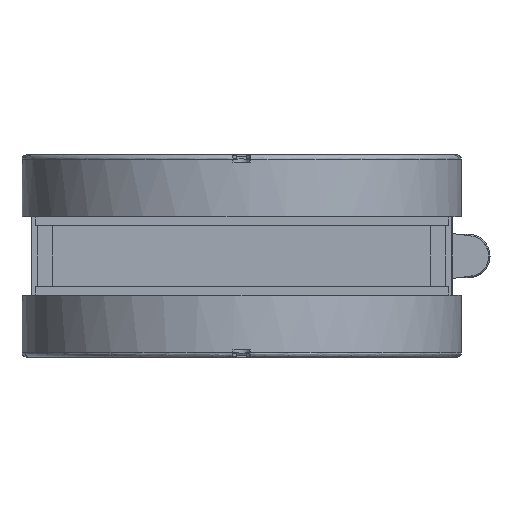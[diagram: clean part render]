
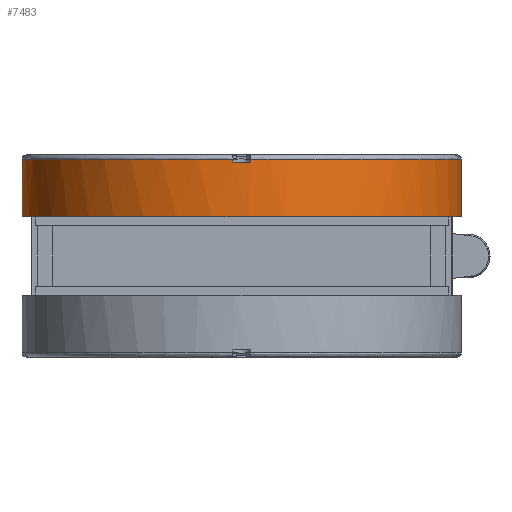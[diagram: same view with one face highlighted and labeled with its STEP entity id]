
A CAD part, front view. The second image highlights one B-rep face of the part: STEP entity #7483.
In plain terms, the highlighted free-form (B-spline) face has degree [2, 1] with [7, 2] control points.
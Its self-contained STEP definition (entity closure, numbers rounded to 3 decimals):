
#3679=CARTESIAN_POINT('V126',(75.741,19.9,
   3.));
#3680=VERTEX_POINT('V126',#3679);
#3692=CARTESIAN_POINT('V127',(-75.741,19.9,
   3.));
#3693=VERTEX_POINT('V127',#3692);
#3694=CARTESIAN_POINT('E205',(75.741,19.9,
   3.));
#3695=CARTESIAN_POINT('E205',(72.857,19.9,
   75.8));
#3696=CARTESIAN_POINT('E205',(0.,19.9,
   75.8));
#3697=CARTESIAN_POINT('E205',(-72.857,19.9,
   75.8));
#3698=CARTESIAN_POINT('E205',(-75.741,19.9,
   3.));
#3706=(BOUNDED_CURVE()B_SPLINE_CURVE(2,(#3694,#3695,#3696,#3697,
   #3698),.CIRCULAR_ARC.,.F.,.U.)B_SPLINE_CURVE_WITH_KNOTS((3,2,3),
   (2.0,50.285,98.57),.UNSPECIFIED.)CURVE(
   )GEOMETRIC_REPRESENTATION_ITEM()RATIONAL_B_SPLINE_CURVE((1.0,
   0.721,1.0,0.721,1.0))REPRESENTATION_ITEM(
   'E205'));
#3707=EDGE_CURVE('E205',#3680,#3693,#3706,.T.);
#3771=CARTESIAN_POINT('V122',(-75.741,19.9,
   -3.));
#3772=VERTEX_POINT('V122',#3771);
#3784=CARTESIAN_POINT('V123',(75.741,19.9,
   -3.));
#3785=VERTEX_POINT('V123',#3784);
#3786=CARTESIAN_POINT('E195',(-75.741,19.9,
   -3.));
#3787=CARTESIAN_POINT('E195',(-72.857,19.9,
   -75.8));
#3788=CARTESIAN_POINT('E195',(0.,19.9,
   -75.8));
#3789=CARTESIAN_POINT('E195',(72.857,19.9,
   -75.8));
#3790=CARTESIAN_POINT('E195',(75.741,19.9,
   -3.));
#3798=(BOUNDED_CURVE()B_SPLINE_CURVE(2,(#3786,#3787,#3788,#3789,
   #3790),.CIRCULAR_ARC.,.F.,.U.)B_SPLINE_CURVE_WITH_KNOTS((3,2,3),
   (2.0,50.285,98.57),.UNSPECIFIED.)CURVE(
   )GEOMETRIC_REPRESENTATION_ITEM()RATIONAL_B_SPLINE_CURVE((1.0,
   0.721,1.0,0.721,1.0))REPRESENTATION_ITEM(
   'E195'));
#3799=EDGE_CURVE('E195',#3772,#3785,#3798,.T.);
#6994=CARTESIAN_POINT('V9',(-75.741,18.9,
   -3.));
#6995=VERTEX_POINT('V9',#6994);
#7001=CARTESIAN_POINT('E10',(-75.741,18.9,
   -3.));
#7002=CARTESIAN_POINT('E10',(-75.741,19.9,
   -3.));
#7003=B_SPLINE_CURVE_WITH_KNOTS('E10',1,(#7001,#7002),
   .POLYLINE_FORM.,.F.,.U.,(2,2),(0.0,0.4),
   .UNSPECIFIED.);
#7004=EDGE_CURVE('E10',#6995,#3772,#7003,.T.);
#7278=CARTESIAN_POINT('V8',(-75.8,0.,0.0)
   );
#7279=VERTEX_POINT('V8',#7278);
#7280=CARTESIAN_POINT('E8',(-75.8,0.,0.0)
   );
#7281=CARTESIAN_POINT('E8',(-75.8,0.,
   -131.289));
#7282=CARTESIAN_POINT('E8',(37.9,0.,
   -65.645));
#7283=CARTESIAN_POINT('E8',(151.6,0.,
   0.));
#7284=CARTESIAN_POINT('E8',(37.9,0.,
   65.645));
#7285=CARTESIAN_POINT('E8',(-75.8,0.,
   131.289));
#7286=CARTESIAN_POINT('E8',(-75.8,0.,0.0)
   );
#7294=(BOUNDED_CURVE()B_SPLINE_CURVE(2,(#7280,#7281,#7282,#7283,
   #7284,#7285,#7286),.CIRCULAR_ARC.,.T.,.U.)
   B_SPLINE_CURVE_WITH_KNOTS((3,2,2,3),(0.0,0.333,
   0.667,1.0),.UNSPECIFIED.)CURVE()
   GEOMETRIC_REPRESENTATION_ITEM()RATIONAL_B_SPLINE_CURVE((1.0,
   0.5,1.0,0.5,1.0,0.5,1.0)
   )REPRESENTATION_ITEM('E8'));
#7295=EDGE_CURVE('E8',#7279,#7279,#7294,.T.);
#7323=CARTESIAN_POINT('V3',(75.741,18.9,
   3.));
#7324=VERTEX_POINT('V3',#7323);
#7330=CARTESIAN_POINT('E3',(75.741,18.9,
   3.));
#7331=CARTESIAN_POINT('E3',(75.741,19.9,
   3.));
#7332=B_SPLINE_CURVE_WITH_KNOTS('E3',1,(#7330,#7331),.POLYLINE_FORM.,
   .F.,.U.,(2,2),(0.0,0.4),.UNSPECIFIED.);
#7333=EDGE_CURVE('E3',#7324,#3680,#7332,.T.);
#7343=CARTESIAN_POINT('V2',(75.741,18.9,
   -3.));
#7344=VERTEX_POINT('V2',#7343);
#7345=CARTESIAN_POINT('E2',(75.741,18.9,
   -3.));
#7346=CARTESIAN_POINT('E2',(75.859,18.9,
   0.));
#7347=CARTESIAN_POINT('E2',(75.741,18.9,
   3.));
#7355=(BOUNDED_CURVE()B_SPLINE_CURVE(2,(#7345,#7346,#7347),
   .CIRCULAR_ARC.,.F.,.U.)CURVE()GEOMETRIC_REPRESENTATION_ITEM()
   QUASI_UNIFORM_CURVE()RATIONAL_B_SPLINE_CURVE((1.0,
   0.999,1.0))REPRESENTATION_ITEM('E2'));
#7356=EDGE_CURVE('E2',#7344,#7324,#7355,.T.);
#7390=CARTESIAN_POINT('E1',(75.741,19.9,
   -3.));
#7391=CARTESIAN_POINT('E1',(75.741,18.9,
   -3.));
#7392=B_SPLINE_CURVE_WITH_KNOTS('E1',1,(#7390,#7391),.POLYLINE_FORM.,
   .F.,.U.,(2,2),(0.6,1.0),.UNSPECIFIED.);
#7393=EDGE_CURVE('E1',#3785,#7344,#7392,.T.);
#7411=CARTESIAN_POINT('F1',(-75.8,21.4,
   0.0));
#7412=CARTESIAN_POINT('F1',(-75.8,21.4,
   -131.289));
#7413=CARTESIAN_POINT('F1',(37.9,21.4,
   -65.645));
#7414=CARTESIAN_POINT('F1',(151.6,21.4,
   0.));
#7415=CARTESIAN_POINT('F1',(37.9,21.4,
   65.645));
#7416=CARTESIAN_POINT('F1',(-75.8,21.4,
   131.289));
#7417=CARTESIAN_POINT('F1',(-75.8,21.4,
   0.0));
#7418=CARTESIAN_POINT('F1',(-75.8,0.,0.0)
   );
#7419=CARTESIAN_POINT('F1',(-75.8,0.,
   -131.289));
#7420=CARTESIAN_POINT('F1',(37.9,0.,
   -65.645));
#7421=CARTESIAN_POINT('F1',(151.6,0.,
   0.));
#7422=CARTESIAN_POINT('F1',(37.9,0.,
   65.645));
#7423=CARTESIAN_POINT('F1',(-75.8,0.,
   131.289));
#7424=CARTESIAN_POINT('F1',(-75.8,0.,0.0)
   );
#7432=(BOUNDED_SURFACE()B_SPLINE_SURFACE(2,1,((#7411,#7418),(
   #7412,#7419),(#7413,#7420),(#7414,#7421),(#7415,#7422),(
   #7416,#7423),(#7417,#7424)),.CYLINDRICAL_SURF.,.T.,.F.,.U.)
   B_SPLINE_SURFACE_WITH_KNOTS((3,2,2,3),(2,2),(0.0,
   12.27,24.54,36.81),(0.0,
   1.0),.UNSPECIFIED.)GEOMETRIC_REPRESENTATION_ITEM()
   RATIONAL_B_SPLINE_SURFACE(((1.0,1.0),(0.5,
   0.5),(1.0,1.0),(0.5,
   0.5),(1.0,1.0),(0.5,
   0.5),(1.0,1.0)))REPRESENTATION_ITEM('F1')SURFACE()
   );
#7433=ORIENTED_EDGE('E205',*,*,#3707,.F.);
#7434=ORIENTED_EDGE('F7',*,*,#7333,.F.);
#7435=ORIENTED_EDGE('E2',*,*,#7356,.F.);
#7436=ORIENTED_EDGE('E1',*,*,#7393,.F.);
#7437=ORIENTED_EDGE('E195',*,*,#3799,.F.);
#7438=ORIENTED_EDGE('F3',*,*,#7004,.F.);
#7439=CARTESIAN_POINT('V7',(-75.8,18.9,
   0.));
#7440=VERTEX_POINT('V7',#7439);
#7441=CARTESIAN_POINT('E9',(-75.8,18.9,
   0.));
#7442=CARTESIAN_POINT('E9',(-75.8,18.9,
   -1.501));
#7443=CARTESIAN_POINT('E9',(-75.741,18.9,
   -3.));
#7451=(BOUNDED_CURVE()B_SPLINE_CURVE(2,(#7441,#7442,#7443),
   .CIRCULAR_ARC.,.F.,.U.)B_SPLINE_CURVE_WITH_KNOTS((3,3),(
   0.5,1.0),.UNSPECIFIED.)CURVE()
   GEOMETRIC_REPRESENTATION_ITEM()RATIONAL_B_SPLINE_CURVE((
   1.,1.,1.0))REPRESENTATION_ITEM('E9')
   );
#7452=EDGE_CURVE('E9',#7440,#6995,#7451,.T.);
#7453=ORIENTED_EDGE('E9',*,*,#7452,.F.);
#7454=CARTESIAN_POINT('E7',(-75.8,0.,0.0)
   );
#7455=CARTESIAN_POINT('E7',(-75.8,18.9,
   0.0));
#7456=B_SPLINE_CURVE_WITH_KNOTS('E7',1,(#7454,#7455),.POLYLINE_FORM.,
   .F.,.U.,(2,2),(0.0,0.883),.UNSPECIFIED.);
#7457=EDGE_CURVE('E7',#7279,#7440,#7456,.T.);
#7458=ORIENTED_EDGE('E7',*,*,#7457,.F.);
#7459=ORIENTED_EDGE('F17',*,*,#7295,.T.);
#7460=ORIENTED_EDGE('E7',*,*,#7457,.T.);
#7461=CARTESIAN_POINT('V6',(-75.741,18.9,
   3.));
#7462=VERTEX_POINT('V6',#7461);
#7463=CARTESIAN_POINT('E6',(-75.741,18.9,
   3.));
#7464=CARTESIAN_POINT('E6',(-75.8,18.9,
   1.501));
#7465=CARTESIAN_POINT('E6',(-75.8,18.9,
   0.));
#7473=(BOUNDED_CURVE()B_SPLINE_CURVE(2,(#7463,#7464,#7465),
   .CIRCULAR_ARC.,.F.,.U.)B_SPLINE_CURVE_WITH_KNOTS((3,3),(0.0,
   0.5),.UNSPECIFIED.)CURVE()
   GEOMETRIC_REPRESENTATION_ITEM()RATIONAL_B_SPLINE_CURVE((1.0,
   1.,1.))REPRESENTATION_ITEM('E6'));
#7474=EDGE_CURVE('E6',#7462,#7440,#7473,.T.);
#7475=ORIENTED_EDGE('E6',*,*,#7474,.F.);
#7476=CARTESIAN_POINT('E5',(-75.741,19.9,
   3.));
#7477=CARTESIAN_POINT('E5',(-75.741,18.9,
   3.));
#7478=B_SPLINE_CURVE_WITH_KNOTS('E5',1,(#7476,#7477),.POLYLINE_FORM.,
   .F.,.U.,(2,2),(0.6,1.0),.UNSPECIFIED.);
#7479=EDGE_CURVE('E5',#3693,#7462,#7478,.T.);
#7480=ORIENTED_EDGE('E5',*,*,#7479,.F.);
#7481=EDGE_LOOP('F1',(#7433,#7434,#7435,#7436,#7437,#7438,#7453,
   #7458,#7459,#7460,#7475,#7480));
#7482=FACE_OUTER_BOUND('F1',#7481,.F.);
#7483=ADVANCED_FACE('F1',(#7482),#7432,.T.);
